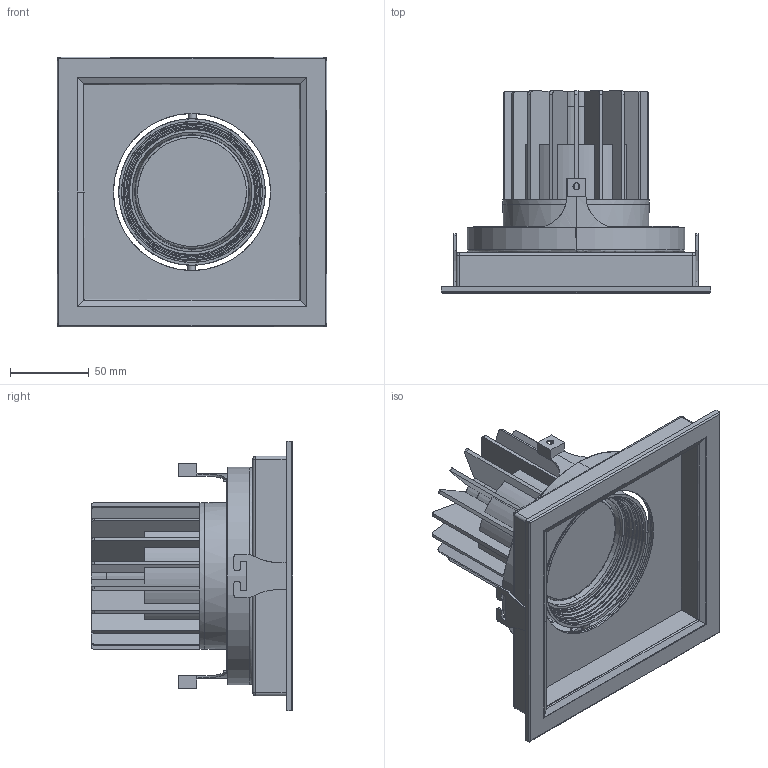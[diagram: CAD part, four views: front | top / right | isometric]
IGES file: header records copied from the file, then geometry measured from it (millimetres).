
Start section: SolidWorks IGES file using analytic representation for surfaces
Global section: file name: F:\GABRYSIA\MODELE 3D\OPRAWY\CL-CIA-LED-9720-WWW\CL-DIA-LED-9720.IGS; native system: SolidWorks 2017; preprocessor: SolidWorks 2017; author: Togambi; date: 200907.102016; units: millimetre
Bounding box: 171 x 128.01 x 171 mm (x, y, z)
Surface area: 251064.5 mm2 (no closed solid volume)
Topology: 0 solids, 0 shells, 441 faces, 6286 edges, 6285 vertices
Faces by surface type: bspline 287, revolution 154
